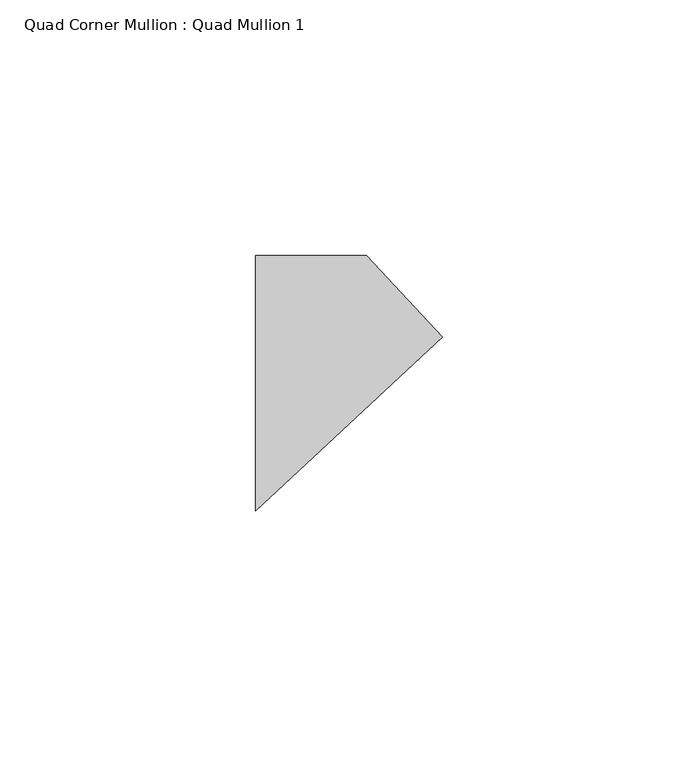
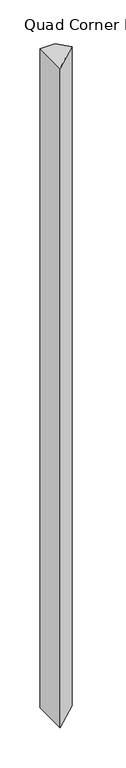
"""IFC4 building model written with IfcOpenShell, lengths in millimetres: member geometry, Quad Corner Mullion : Quad Mullion 1."""

from ifc_helpers import new_model, si_unit, frame, origin, place, context, project, spatial, polyline, outline, extrude, source, transform, mapped, element, save


def quad_corner_mullion_quad_mullion_1_1db5dcfc(model_context):
    return source(origin(), model_context, "Body", "SweptSolid", [
        extrude(outline(polyline([(25.6973757, 9.099918), (-10.8703094, -25.0), (-10.8703094, 25.0), (10.8703094, 25.0), (25.6973757, 9.099918)])), frame((0.0, 0.0, -1000.0), z_axis=(0.0, 0.0, 1.0), x_axis=(1.0, 0.0, 0.0)), (0.0, 0.0, 1.0), 1000.0),
    ])


if __name__ == "__main__":
    model = new_model("IFC4")
    model_context = context("Model", 3, world=origin())
    ifc_project = project(units=[si_unit("LENGTHUNIT", "METRE", prefix="MILLI")], contexts=[model_context])
    site = spatial("IfcSite", under=ifc_project)
    building = spatial("IfcBuilding", under=site)
    placement = place(None, origin())
    quad_corner_mullion_quad_mullion_1_shape = quad_corner_mullion_quad_mullion_1_1db5dcfc(model_context)
    element("IfcMember", 1, ObjectType="Quad Corner Mullion : Quad Mullion 1", at=placement, inside=building, context=model_context, shape_type="MappedRepresentation", body=[
        mapped(quad_corner_mullion_quad_mullion_1_shape, transform((0.0, 0.0, 0.0), x_axis=(1.0, 0.0, 0.0), y_axis=(0.0, 1.0, 0.0), z_axis=(0.0, 0.0, 1.0))),
    ])
    save(model, "model.ifc")
